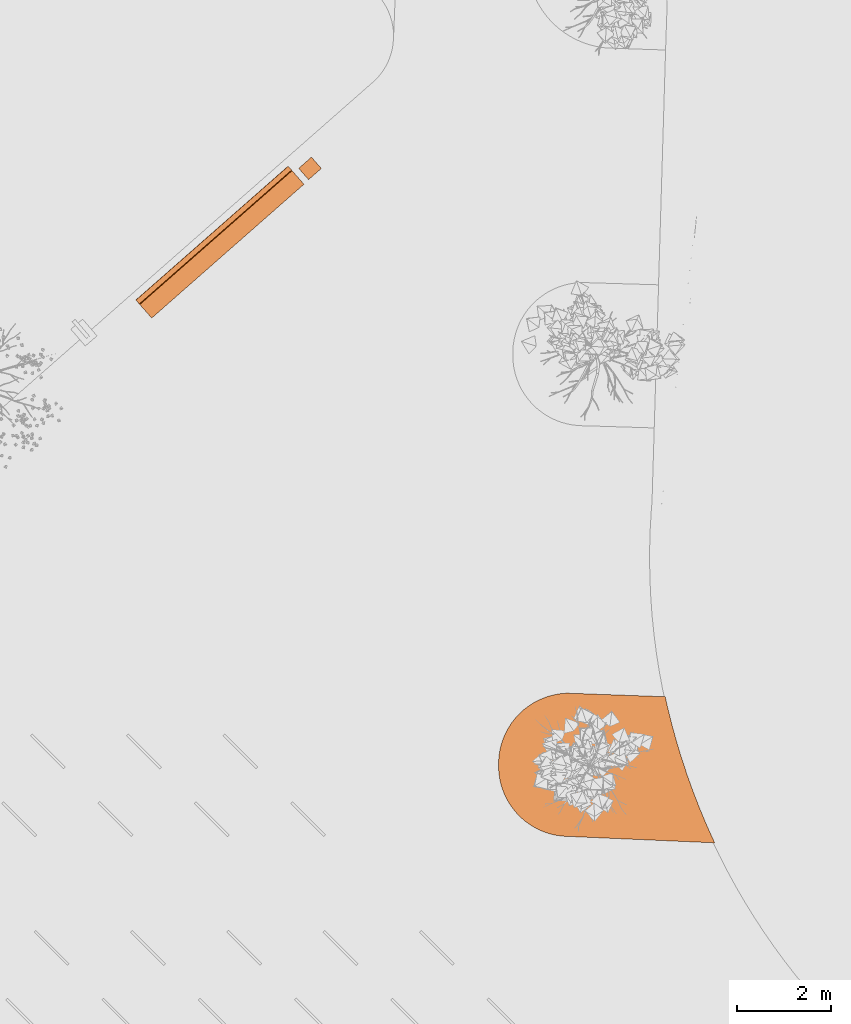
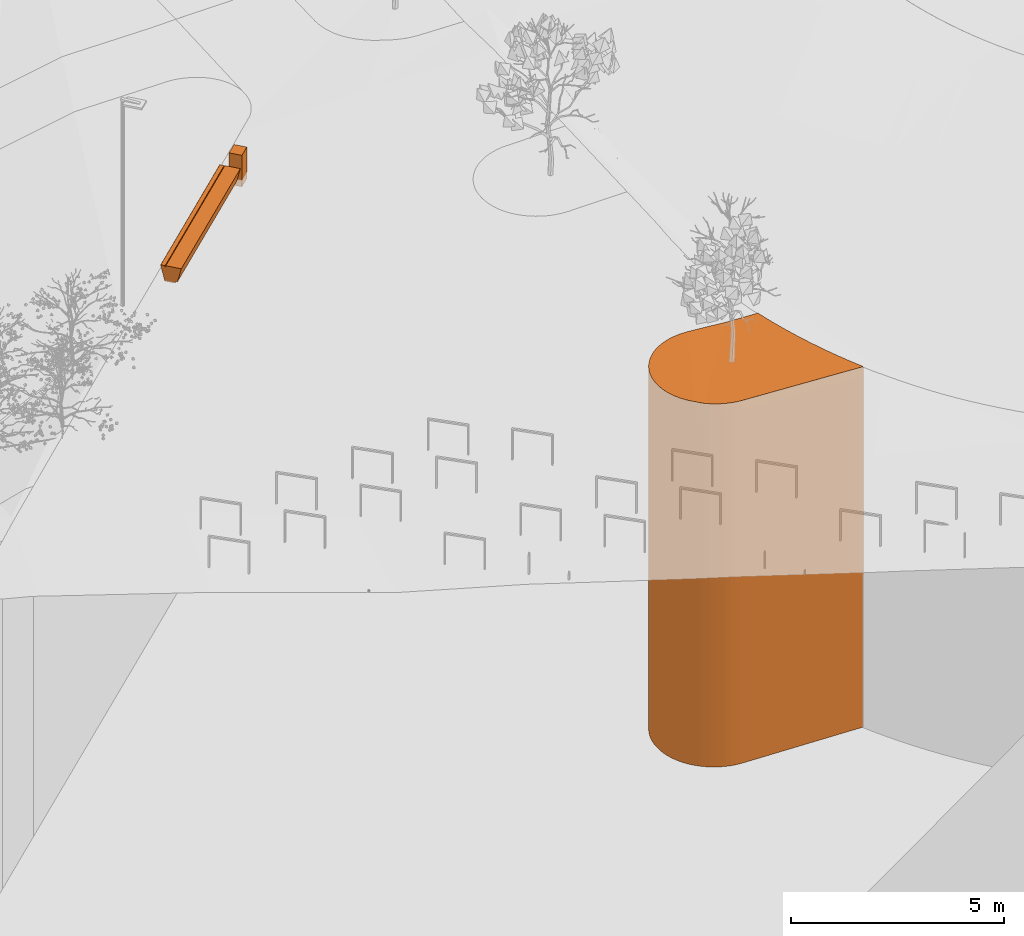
# One storey, part 230 of 246: 3 proxies.
"""IFC2X3 building model written with IfcOpenShell, lengths in millimetres."""

from ifc_helpers import new_model, entity, si_unit, converted_unit, derived_unit, money_unit, direction, frame, origin_with_axes, place, context, subcontext, project, spatial, faceted_brep, material, material_list, type_object, element, save


model = new_model("IFC2X3")

# Units and contexts
model_context = context("Model", 3, precision=0.01, world=origin_with_axes(), true_north=direction((0.0, 1.0)))
body_context = subcontext(model_context, "Body", "Model", "MODEL_VIEW")
ifc_project = project(units=[si_unit("LENGTHUNIT", "METRE", prefix="MILLI"), si_unit("AREAUNIT", "SQUARE_METRE"), si_unit("VOLUMEUNIT", "CUBIC_METRE"), converted_unit("PLANEANGLEUNIT", "DEGREE", entity("IfcPlaneAngleMeasure", 0.0174532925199), si_unit("PLANEANGLEUNIT", "RADIAN"), dimensions=[0, 0, 0, 0, 0, 0, 0]), si_unit("SOLIDANGLEUNIT", "STERADIAN"), money_unit("EUR"), converted_unit("TIMEUNIT", "Year", entity("IfcTimeMeasure", 31556926.0), si_unit("TIMEUNIT", "SECOND"), dimensions=[0, 0, 1, 0, 0, 0, 0]), si_unit("MASSUNIT", "GRAM", prefix="KILO"), si_unit("THERMODYNAMICTEMPERATUREUNIT", "DEGREE_CELSIUS"), si_unit("LUMINOUSINTENSITYUNIT", "LUMEN"), si_unit("ENERGYUNIT", "JOULE", prefix="MEGA"), derived_unit("THERMALCONDUCTANCEUNIT", [(si_unit("POWERUNIT", "WATT"), 1), (si_unit("LENGTHUNIT", "METRE"), -1), (si_unit("THERMODYNAMICTEMPERATUREUNIT", "KELVIN"), -1)]), derived_unit("SPECIFICHEATCAPACITYUNIT", [(si_unit("ENERGYUNIT", "JOULE"), 1), (si_unit("MASSUNIT", "GRAM", prefix="KILO"), -1), (si_unit("THERMODYNAMICTEMPERATUREUNIT", "KELVIN"), -1)]), derived_unit("MASSDENSITYUNIT", [(si_unit("MASSUNIT", "GRAM", prefix="KILO"), 1), (si_unit("VOLUMEUNIT", "CUBIC_METRE"), -1)])], contexts=[model_context])

# Site, building, storey
site_placement = place(None, origin_with_axes())
site = spatial("IfcSite", under=ifc_project, at=site_placement, Name="L.Koidula tn 11b", CompositionType="ELEMENT")
building_placement = place(site_placement, origin_with_axes())
building = spatial("IfcBuilding", under=site, at=building_placement, Name="Rakvere Riigigümnaasium", CompositionType="ELEMENT")
storey_placement = place(building_placement, origin_with_axes())
storey = spatial("IfcBuildingStorey", under=building, at=storey_placement, Name="1.korrus 0,00", CompositionType="ELEMENT", Elevation=0.0)

# Proxies
ifc_material_1 = material(Name="Roheala")
building_element_proxy_type_1 = type_object("IfcBuildingElementProxyType", Name="Roheala", PredefinedType="NOTDEFINED")
proxy_1_placement = place(storey_placement, frame((36051.8205085, 83350.6584875, -10000.0), z_axis=(0.0, 0.0, 1.0), x_axis=(1.0, 0.0, 0.0)))
element("IfcBuildingElementProxy", 1, at=proxy_1_placement, inside=storey, type_object=building_element_proxy_type_1, material=ifc_material_1, Name="Roheala", context=body_context, shape_type="Brep", body=[
    faceted_brep([(4437.7885987, 363.71734068, 10307.6224994), (4603.28844086, 0.0, 10305.8205274), (4603.28844086, 0.0, 0.0), (4437.7885987, 363.71734068, 0.0), (1412.68745693, 140.026950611, 10370.3217748), (4288.43134442, 719.493979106, 10309.129455), (4265.30895924, 778.844619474, 10309.3442492), (1375.87043533, 141.642751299, 10371.0953968), (1375.87043533, 141.642751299, 0.0), (-1.19367814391, 1623.57024917, 0.0), (0.777010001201, 1684.77236759, 0.0), (1.30170286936, 1756.63884588, 0.0), (12.2671901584, 1878.95875767, 0.0), (33.1663990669, 1999.97787104, 0.0), (63.8602488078, 2118.89082374, 0.0), (104.144476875, 2234.9062697, 0.0), (153.750998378, 2347.25214527, 0.0), (212.349690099, 2455.18080718, 0.0), (279.550587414, 2557.97400799, 0.0), (354.906479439, 2654.94767591, 0.0), (437.915885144, 2745.45646718, 0.0), (528.026390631, 2828.89806073, 0.0), (624.638325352, 2904.71716651, 0.0), (727.108752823, 2972.4092209, 0.0), (834.755749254, 3031.52374443, 0.0), (946.862941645, 3081.6673397, 0.0), (1062.68427513, 3122.50630937, 0.0), (1181.44897783, 3153.76887682, 0.0), (1302.36669026, 3175.24699483, 0.0), (1424.63272499, 3186.79773006, 0.0), (1486.03307336, 3187.57097218, 0.0), (3549.09108708, 3112.95597907, 0.0), (3590.38711465, 2924.49964574, 0.0), (3682.73623449, 2549.85815589, 0.0), (3784.78016933, 2177.7403772, 0.0), (3896.45013448, 1808.39714288, 0.0), (4017.67085663, 1442.07741589, 0.0), (4148.3606246, 1079.02812116, 0.0), (4288.43134442, 719.493979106, 0.0), (1238.63769314, 158.174731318, 0.0), (1119.01029405, 184.397184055, 0.0), (1001.9183186, 220.283127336, 0.0), (888.140994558, 265.593746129, 0.0), (778.435491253, 320.027505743, 0.0), (673.531880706, 383.222158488, 0.0), (574.12827914, 454.757154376, 0.0), (480.88620112, 534.156439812, 0.0), (394.426157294, 620.891625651, 0.0), (315.323524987, 714.385503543, 0.0), (244.104719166, 814.015887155, 0.0), (181.243689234, 919.119752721, 0.0), (127.158764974, 1028.99765136, 0.0), (82.2098726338, 1142.91836378, 0.0), (46.6961396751, 1260.12376644, 0.0), (20.8539041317, 1379.83387672, 0.0), (4.8551418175, 1501.25204359, 0.0), (4148.3606246, 1079.02812116, 10310.8134156), (4250.81575802, 816.045832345, 10309.5991839), (1367.18727241, 142.688783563, 10371.2769507), (1238.63769314, 158.174731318, 10373.8715096), (-1.19367814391, 1623.57024917, 10383.8122551), (0.777010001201, 1684.77236759, 10383.3105304), (1.30170286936, 1756.63884588, 10382.6896405), (12.2671901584, 1878.95875767, 10381.811526), (33.1663990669, 1999.97787104, 10381.1210251), (63.8602488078, 2118.89082374, 10380.6227329), (104.144476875, 2234.9062697, 10380.3199655), (153.750998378, 2347.25214527, 10380.2147378), (212.349690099, 2455.18080718, 10380.3077499), (279.550587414, 2557.97400799, 10380.598383), (354.906479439, 2654.94767591, 10381.084703), (437.915885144, 2745.45646718, 10381.7634733), (528.026390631, 2828.89806073, 10382.6301771), (624.638325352, 2904.71716651, 10383.6790463), (727.108752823, 2972.4092209, 10384.9031012), (834.755749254, 3031.52374443, 10386.2941956), (946.862941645, 3081.6673397, 10387.8430722), (1062.68427513, 3122.50630937, 10389.5394234), (1181.44897783, 3153.76887682, 10391.3719602), (1302.36669026, 3175.24699483, 10393.3284876), (1424.63272499, 3186.79773006, 10395.395985), (1486.03307336, 3187.57097218, 10396.4783393), (2705.29889191, 3143.47356433, 10334.8968235), (3549.09108708, 3112.95597907, 10316.8791924), (1681.08055519, 3180.51665455, 10400.0), (3551.94763882, 3099.91997298, 10316.8479761), (3590.38711465, 2924.49964574, 10316.3498672), (3636.64247232, 2736.85112086, 10315.7051702), (3682.73623449, 2549.85815589, 10315.3928117), (3784.78016933, 2177.7403772, 10314.5587527), (3896.45013448, 1808.39714288, 10313.517009), (4017.67085663, 1442.07741589, 10312.2682827), (1119.01029405, 184.397184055, 10376.245761), (1001.9183186, 220.283127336, 10378.534886), (888.140994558, 265.593746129, 10380.7236507), (778.435491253, 320.027505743, 10382.7974893), (695.923201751, 369.733473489, 10384.3274234), (673.531880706, 383.222158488, 10384.7890177), (644.473363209, 404.133884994, 10385.3814706), (574.12827914, 454.757154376, 10386.7728489), (548.225951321, 476.814002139, 10387.2773124), (480.88620112, 534.156439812, 10393.2527198), (408.658359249, 606.614132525, 10400.0), (394.426157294, 620.891625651, 10399.6223463), (315.323524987, 714.385503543, 10397.3993562), (244.104719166, 814.015887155, 10395.2624005), (181.243689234, 919.119752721, 10393.2257001), (127.158764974, 1028.99765136, 10391.302809), (82.2098726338, 1142.91836378, 10389.5065237), (46.6961396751, 1260.12376644, 10387.8487982), (20.8539041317, 1379.83387672, 10386.3406644), (4.8551418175, 1501.25204359, 10384.9921587)], [[[0, 1, 2, 3]], [[4, 1, 0, 5, 6]], [[4, 7, 8, 2, 1]], [[9, 10, 11, 12, 13, 14, 15, 16, 17, 18, 19, 20, 21, 22, 23, 24, 25, 26, 27, 28, 29, 30, 31, 32, 33, 34, 35, 36, 37, 38, 3, 2, 8, 39, 40, 41, 42, 43, 44, 45, 46, 47, 48, 49, 50, 51, 52, 53, 54, 55]], [[5, 0, 3, 38]], [[6, 5, 38, 37, 56, 57]], [[6, 57, 58, 7, 4]], [[58, 59, 39, 8, 7]], [[60, 61, 10, 9]], [[61, 62, 11, 10]], [[62, 63, 12, 11]], [[63, 64, 13, 12]], [[64, 65, 14, 13]], [[65, 66, 15, 14]], [[66, 67, 16, 15]], [[67, 68, 17, 16]], [[68, 69, 18, 17]], [[69, 70, 19, 18]], [[70, 71, 20, 19]], [[71, 72, 21, 20]], [[72, 73, 22, 21]], [[73, 74, 23, 22]], [[74, 75, 24, 23]], [[75, 76, 25, 24]], [[76, 77, 26, 25]], [[77, 78, 27, 26]], [[78, 79, 28, 27]], [[79, 80, 29, 28]], [[80, 81, 30, 29]], [[82, 83, 31, 30, 81, 84]], [[85, 86, 32, 31, 83]], [[87, 88, 33, 32, 86]], [[88, 89, 34, 33]], [[89, 90, 35, 34]], [[90, 91, 36, 35]], [[91, 56, 37, 36]], [[59, 92, 40, 39]], [[92, 93, 41, 40]], [[93, 94, 42, 41]], [[94, 95, 43, 42]], [[96, 97, 44, 43, 95]], [[98, 99, 45, 44, 97]], [[100, 101, 46, 45, 99]], [[102, 103, 47, 46, 101]], [[103, 104, 48, 47]], [[104, 105, 49, 48]], [[105, 106, 50, 49]], [[106, 107, 51, 50]], [[107, 108, 52, 51]], [[108, 109, 53, 52]], [[109, 110, 54, 53]], [[110, 111, 55, 54]], [[111, 60, 9, 55]], [[57, 56, 91, 90, 89, 88, 87, 96, 95, 94, 93, 92, 59, 58]], [[84, 81, 80, 79, 78, 77, 76, 75, 74, 73, 72, 71, 70, 69, 68, 67, 66, 65, 64, 63, 62, 61, 60, 111, 110, 109, 108, 107, 106, 105, 104, 103, 102]], [[85, 83, 82, 100, 99, 98]], [[82, 84, 102, 101, 100]], [[87, 86, 85, 98, 97, 96]]]),
])
ifc_material_2 = material(Name="Betoon")
ifc_material_3 = material(Name="Puit-pink")
ifc_material_list = material_list([ifc_material_2, ifc_material_3])
building_element_proxy_type_2 = type_object("IfcBuildingElementProxyType", Name="PINK llaudisega 514 x 450", PredefinedType="NOTDEFINED")
proxy_2_placement = place(storey_placement, frame((31427.781859, 97924.2829946, 123.408487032), z_axis=(0.0, 0.0, 1.0), x_axis=(-0.660196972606, 0.751092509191, 0.0)))
element("IfcBuildingElementProxy", 2, at=proxy_2_placement, inside=storey, type_object=building_element_proxy_type_2, material=ifc_material_list, Name="Pink", context=body_context, shape_type="Brep", body=[
    faceted_brep([(-662.126380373, 0.0, 352.544785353), (-662.126380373, 4318.41318317, 352.544785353), (-666.056743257, 4318.41318317, 350.635456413), (-666.056743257, 0.0, 350.635456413), (-330.567966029, 0.0, 352.544783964), (-330.567966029, 4318.41318317, 352.544783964), (-327.006798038, 4318.41318317, 352.544785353), (-323.076435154, 4318.41318317, 354.454114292), (-322.147814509, 4318.41318317, 358.723886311), (-330.069378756, 4318.41318317, 391.368037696), (-329.140758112, 4318.41318317, 395.637809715), (-325.210395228, 4318.41318317, 397.547138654), (-216.960022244, 4318.41318317, 397.547138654), (-213.424488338, 4318.41318317, 396.08267256), (-211.960022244, 4318.41318317, 392.547138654), (-212.101038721, 4318.41318317, 391.368037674), (-319.801002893, 4318.41318317, -52.4551463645), (-570.205858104, 4318.41318317, -52.4551468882), (-583.791921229, 4318.41318317, 3.53196799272), (-666.985363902, 4318.41318317, 346.365684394), (-666.985363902, 0.0, 346.365684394), (-583.791921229, 0.0, 3.53196799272), (-570.205858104, 0.0, -52.4551468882), (-319.801002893, 0.0, -52.4551463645), (-212.101038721, 0.0, 391.368037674), (-211.960022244, 0.0, 392.547138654), (-213.424488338, 0.0, 396.08267256), (-216.960022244, 0.0, 397.547138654), (-325.210395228, 0.0, 397.547138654), (-329.140758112, 0.0, 395.637809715), (-330.069378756, 0.0, 391.368037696), (-322.147814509, 0.0, 358.723886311), (-323.076435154, 0.0, 354.454114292), (-327.006798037, 0.0, 352.544785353)], [[[0, 1, 2, 3]], [[4, 5, 1, 0]], [[2, 1, 5, 6, 7, 8, 9, 10, 11, 12, 13, 14, 15, 16, 17, 18, 19]], [[3, 2, 19, 20]], [[4, 0, 3, 20, 21, 22, 23, 24, 25, 26, 27, 28, 29, 30, 31, 32, 33]], [[33, 6, 5, 4]], [[32, 7, 6, 33]], [[31, 8, 7, 32]], [[30, 9, 8, 31]], [[29, 10, 9, 30]], [[28, 11, 10, 29]], [[27, 12, 11, 28]], [[26, 13, 12, 27]], [[25, 14, 13, 26]], [[24, 15, 14, 25]], [[23, 16, 15, 24]], [[22, 17, 16, 23]], [[21, 18, 17, 22]], [[20, 19, 18, 21]]]),
    faceted_brep([(-725.711246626, 0.0, 397.54713856), (-725.711246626, 4318.41318317, 397.54713856), (-630.097906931, 4318.41318317, 3.53196799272), (-630.097906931, 0.0, 3.53196799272), (-341.626517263, 0.0, 397.54713856), (-341.626517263, 4318.41318317, 397.54713856), (-330.567966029, 4318.41318317, 352.544783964), (-662.126380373, 4318.41318317, 352.544785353), (-668.484809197, 4318.41318317, 352.544783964), (-666.985363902, 4318.41318317, 346.365684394), (-583.791921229, 4318.41318317, 3.53196799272), (-583.791921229, 0.0, 3.53196799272), (-666.985363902, 0.0, 346.365684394), (-668.484809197, 0.0, 352.544783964), (-662.126380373, 0.0, 352.544785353), (-330.567966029, 0.0, 352.544783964)], [[[0, 1, 2, 3]], [[4, 5, 1, 0]], [[2, 1, 5, 6, 7, 8, 9, 10]], [[3, 2, 10, 11]], [[4, 0, 3, 11, 12, 13, 14, 15]], [[15, 6, 5, 4]], [[14, 7, 6, 15]], [[13, 8, 7, 14]], [[12, 9, 8, 13]], [[11, 10, 9, 12]]]),
])
ifc_material_4 = material(Name="ET-05_Teras")
building_element_proxy_type_3 = type_object("IfcBuildingElementProxyType", Name="ET-05_Teras 320", PredefinedType="NOTDEFINED")
proxy_3_placement = place(storey_placement, frame((32065.3009411, 97956.3218774, -95.777985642), z_axis=(0.0, 0.0, 1.0), x_axis=(-0.751092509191, -0.660196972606, 0.0)))
element("IfcBuildingElementProxy", 3, at=proxy_3_placement, inside=storey, type_object=building_element_proxy_type_3, material=ifc_material_4, Name="KMA-232", context=body_context, shape_type="Brep", body=[
    faceted_brep([(0.0, 320.0, 0.0), (362.0, 320.0, 0.0), (362.0, 0.0, 0.0), (0.0, 0.0, 0.0), (0.0, 320.0, 900.0), (362.0, 320.0, 900.0), (362.0, 0.0, 900.0), (0.0, 0.0, 900.0)], [[[0, 1, 2, 3]], [[4, 5, 1, 0]], [[2, 1, 5, 6]], [[3, 2, 6, 7]], [[4, 0, 3, 7]], [[7, 6, 5, 4]]]),
])

save(model, "model.ifc")
